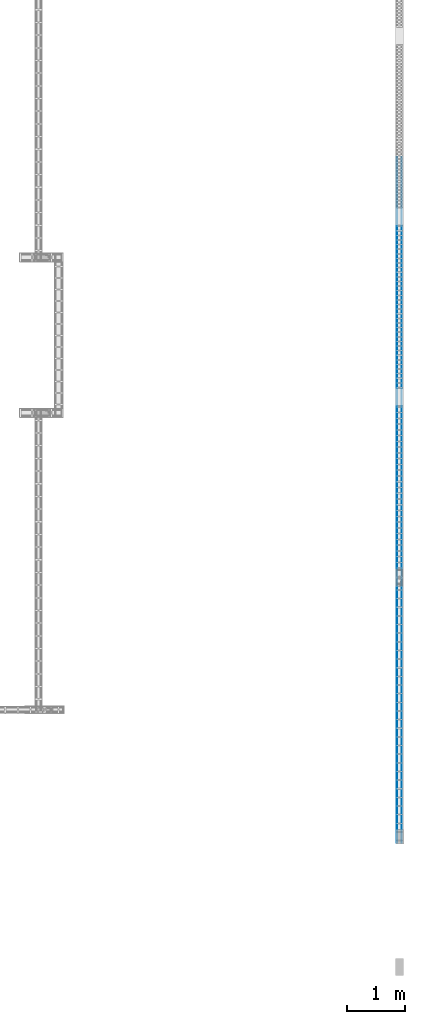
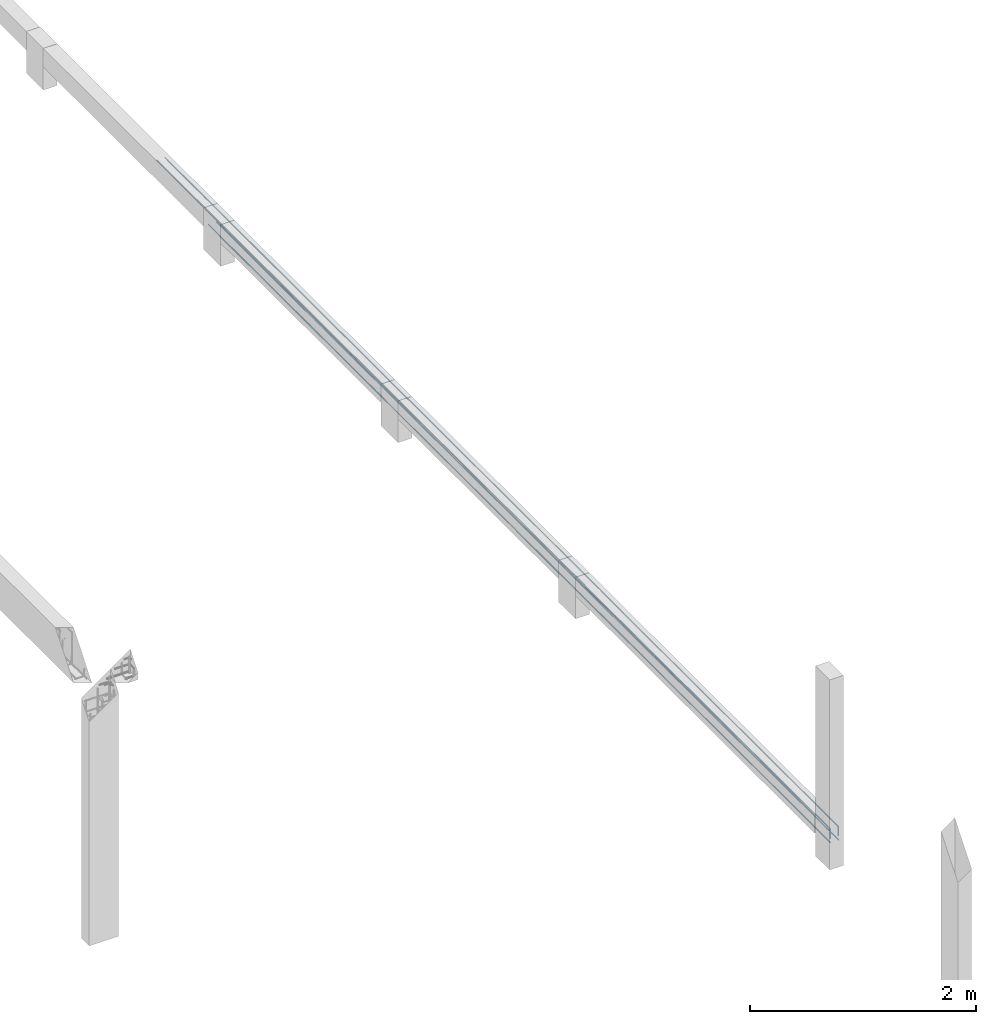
# One storey, part 118 of 236: 4 reinforcing bars.
"""IFC4 building model written with IfcOpenShell, lengths in centimetres."""

from ifc_helpers import new_model, entity, si_unit, derived_unit, frame, origin_with_axes, place, context, project, spatial, element, save


model = new_model("IFC4")

# Units and contexts
model_context = context("Model", 3, precision=1e-05, world=origin_with_axes(), identifier="Body")
ifc_project = project(units=[si_unit("LENGTHUNIT", "METRE", prefix="CENTI"), si_unit("VOLUMEUNIT", "CUBIC_METRE"), si_unit("AREAUNIT", "SQUARE_METRE"), si_unit("POWERUNIT", "WATT"), si_unit("LUMINOUSFLUXUNIT", "LUMEN"), si_unit("ELECTRICCURRENTUNIT", "AMPERE"), si_unit("PRESSUREUNIT", "PASCAL", prefix="KILO"), si_unit("MASSUNIT", "GRAM", prefix="KILO"), si_unit("PLANEANGLEUNIT", "RADIAN"), derived_unit("VOLUMETRICFLOWRATEUNIT", [(si_unit("LENGTHUNIT", "METRE"), 3), (si_unit("TIMEUNIT", "SECOND"), -1)])], contexts=[model_context])

# Site, building, storey
site_placement = place(None, frame((-4000.0, 0.0, 0.0), z_axis=(0.0, 0.0, 1.0), x_axis=(1.0, 0.0, 0.0)))
site = spatial("IfcSite", under=ifc_project, at=site_placement, Name="PADRÃO")
building_placement = place(site_placement, frame((0.0, 0.0, -14.0)))
building = spatial("IfcBuilding", under=site, at=building_placement, Name="CRECHE PRÉ-ESCOLA TIPO 2")
placement_1 = place(building_placement, origin_with_axes())
placement_2 = place(placement_1, frame((0.0, 0.0, 30.0), z_axis=(0.0, 0.0, 1.0), x_axis=(1.0, 0.0, 0.0)))
storey_placement = place(placement_2, frame((0.0, 0.0, 310.0), z_axis=(0.0, 0.0, 1.0), x_axis=(1.0, 0.0, 0.0)))
storey = spatial("IfcBuildingStorey", under=building, at=storey_placement, Name="TERREO", CompositionType="ELEMENT", Elevation=326.0)

# Reinforcing bars
for number, where, z_axis, x_axis, name in (
    (1, (3987.9, 3003.72792004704, -281.7), (0.0, 0.0, 1.0), (1.0, 0.0, 0.0), "V332 - Longitudinal inferior"),
    (2, (3996.1, 3003.72792004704, -281.7), (0.0, 0.0, 1.0), (1.0, 0.0, 0.0), "V332 - Longitudinal inferior"),
):
    element("IfcReinforcingBar", number, at=place(storey_placement, frame(where, z_axis=z_axis, x_axis=x_axis)), inside=storey, Name=name, BarLength=0.0, CrossSectionArea=5.0265482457e-05, NominalDiameter=0.8, PredefinedType="MAIN", context=model_context, shape_type="AdvancedSweptSolid", body=[
        entity("IfcSweptDiskSolid", entity("IfcCompositeCurve", [entity("IfcCompositeCurveSegment", "CONTINUOUS", True, entity("IfcPolyline", [entity("IfcCartesianPoint", [0.0, -549.457920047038, -0.4]), entity("IfcCartesianPoint", [0.0, 549.457920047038, -0.4])]))], False), 0.4),
    ])
for number, where, z_axis, x_axis, name in (
    (3, (3987.9, 3049.2681248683, -267.496249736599), (0.0, 0.0, 1.0), (1.0, 0.0, 0.0), "V332 - Longitudinal superior"),
    (4, (3996.1, 3049.2681248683, -267.496249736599), (0.0, 0.0, 1.0), (1.0, 0.0, 0.0), "V332 - Longitudinal superior"),
):
    element("IfcReinforcingBar", number, at=place(storey_placement, frame(where, z_axis=z_axis, x_axis=x_axis)), inside=storey, Name=name, BarLength=0.0, CrossSectionArea=5.0265482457e-05, NominalDiameter=0.8, PredefinedType="MAIN", context=model_context, shape_type="AdvancedSweptSolid", body=[
        entity("IfcSweptDiskSolid", entity("IfcCompositeCurve", [entity("IfcCompositeCurveSegment", "CONTINUOUS", True, entity("IfcPolyline", [entity("IfcCartesianPoint", [0.0, -594.598124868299, -10.4037502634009]), entity("IfcCartesianPoint", [0.0, -594.598124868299, -0.403750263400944])])), entity("IfcCompositeCurveSegment", "CONTINUOUS", True, entity("IfcPolyline", [entity("IfcCartesianPoint", [0.0, -594.598124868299, -0.403750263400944]), entity("IfcCartesianPoint", [0.0, 595.001875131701, -0.403750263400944])]))], False), 0.4),
    ])

save(model, "model.ifc")
